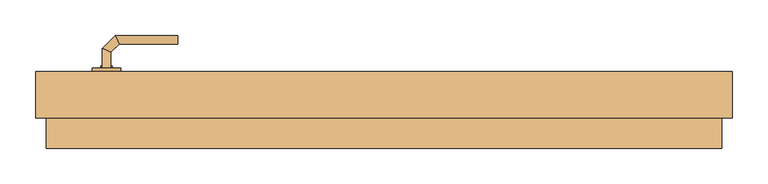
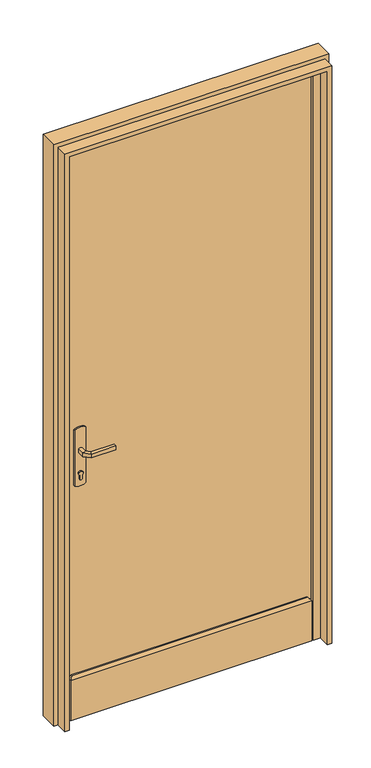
"""IFC4 building model written with IfcOpenShell, lengths in millimetres: door geometry, Porte d'entrée : PP Lisse (0.90 m x 2.15 m)."""

from ifc_helpers import new_model, si_unit, point, frame, frame_2d, origin, origin_with_axes, place, context, project, spatial, polyline, circle_curve, ellipse_curve, trimmed, segment, composite_curve, outline, extrude, faceted_brep, source, transform, mapped, element, save
from ifc_brep_helpers import plane_surface, cylinder_surface, advanced_brep


def door_41a9e6d8(model_context):
    return source(origin(), model_context, "Body", "SolidModel", [
        extrude(outline(composite_curve([segment(trimmed(circle_curve(frame_2d((904.6410162, -400.0)), 40.0), [point((870.0, -420.0))], [point((870.0, -380.0))], False, "CARTESIAN"), True, "CONTINUOUS"), segment(polyline([(870.0, -380.0), (1080.0, -380.0)]), True, "CONTINUOUS"), segment(trimmed(circle_curve(frame_2d((1045.3589838, -400.0)), 40.0), [point((1080.0, -380.0))], [point((1080.0, -420.0))], False, "CARTESIAN"), True, "CONTINUOUS"), segment(polyline([(1080.0, -420.0), (870.0, -420.0)]), True, "CONTINUOUS")], self_intersect=False)), frame((0.0, 183.0, 0.0), z_axis=(0.0, 1.0, 0.0), x_axis=(0.0, 0.0, 1.0)), (0.0, 0.0, 1.0), 5.0),
        extrude(outline(composite_curve([segment(trimmed(circle_curve(frame_2d((1045.3589838, -400.0)), 40.0), [point((1080.0, -380.0))], [point((1080.0, -420.0))], False, "CARTESIAN"), True, "CONTINUOUS"), segment(polyline([(1080.0, -420.0), (870.0, -420.0)]), True, "CONTINUOUS"), segment(trimmed(circle_curve(frame_2d((904.6410162, -400.0)), 40.0), [point((870.0, -420.0))], [point((870.0, -380.0))], False, "CARTESIAN"), True, "CONTINUOUS"), segment(polyline([(870.0, -380.0), (1080.0, -380.0)]), True, "CONTINUOUS")], self_intersect=False)), frame((0.0, 128.0, 0.0), z_axis=(0.0, 1.0, 0.0), x_axis=(0.0, 0.0, 1.0)), (0.0, 0.0, 1.0), 5.0),
        advanced_brep(
        [(-406.0, 188.0, 1007.0), (-406.0, 188.0, 993.0), (-394.0, 188.0, 993.0), (-394.0, 188.0, 1007.0), (-394.0, 210.680388, 1007.0), (-406.0, 215.6509507, 1007.0), (-394.0, 210.680388, 993.0), (-406.0, 215.6509507, 993.0), (-382.6522273, 222.0281607, 1007.0), (-387.62279, 234.0281607, 1007.0), (-382.6522273, 222.0281607, 993.0), (-387.62279, 234.0281607, 993.0), (-299.9813594, 234.0281607, 1007.0), (-299.9813594, 222.0281607, 1007.0), (-299.9813594, 222.0281607, 993.0), (-299.9813594, 234.0281607, 993.0)],
        [
            (0, 1),
            (1, 2, circle_curve(frame((-400.0, 188.0, 1013.0457722), z_axis=(0.0, -1.0, 0.0), x_axis=(1.0, 0.0, 0.0)), 20.9244589)),
            (2, 3),
            (3, 0, circle_curve(frame((-400.0, 188.0, 986.9542278), z_axis=(0.0, -1.0, 0.0), x_axis=(1.0, 0.0, 0.0)), 20.9244589)),
            (3, 4),
            (4, 5, ellipse_curve(frame((-400.0, 213.1656693, 986.9542278), z_axis=(-0.3826834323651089, -0.9238795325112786, 0.0), x_axis=(0.9238795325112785, -0.3826834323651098, 0.0)), 22.6484711, 20.9244589)),
            (5, 0),
            (2, 6),
            (6, 4),
            (1, 7),
            (7, 6, ellipse_curve(frame((-400.0, 213.1656693, 1013.0457722), z_axis=(-0.3826834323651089, -0.9238795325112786, 0.0), x_axis=(0.9238795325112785, -0.3826834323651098, 0.0)), 22.6484711, 20.9244589)),
            (5, 7),
            (4, 8),
            (8, 9, ellipse_curve(frame((-385.1375087, 228.0281607, 986.9542278), z_axis=(-0.9238795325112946, -0.38268343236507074, 0.0), x_axis=(0.3826834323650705, -0.9238795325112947, 0.0)), 22.6484711, 20.9244589)),
            (9, 5),
            (6, 10),
            (10, 8),
            (7, 11),
            (11, 10, ellipse_curve(frame((-385.1375087, 228.0281607, 1013.0457722), z_axis=(-0.9238795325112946, -0.38268343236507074, 0.0), x_axis=(0.3826834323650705, -0.9238795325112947, 0.0)), 22.6484711, 20.9244589)),
            (9, 11),
            (12, 13, circle_curve(frame((-299.9813594, 228.0281607, 986.9542278), z_axis=(1.0, 0.0, 0.0), x_axis=(0.0, -1.0, 0.0)), 20.9244589)),
            (13, 14),
            (14, 15, circle_curve(frame((-299.9813594, 228.0281607, 1013.0457722), z_axis=(1.0, 0.0, 0.0), x_axis=(0.0, -1.0, 0.0)), 20.9244589)),
            (15, 12),
            (8, 13),
            (12, 9),
            (10, 14),
            (11, 15),
        ],
        [
            plane_surface(frame((-409.2195445, 188.0, 1000.0), z_axis=(0.0, -1.0, 0.0), x_axis=(0.0, 0.0, -1.0))),
            cylinder_surface(frame((-400.0, 188.0, 986.9542278), z_axis=(0.0, -1.0, 0.0), x_axis=(1.0, 0.0, 0.0)), 20.9244589),
            plane_surface(frame((-394.0, 188.0, 1007.0), z_axis=(1.0, 0.0, 0.0), x_axis=(0.0, 1.0, 0.0))),
            cylinder_surface(frame((-400.0, 188.0, 1013.0457722), z_axis=(0.0, -1.0, 0.0), x_axis=(1.0, 0.0, 0.0)), 20.9244589),
            plane_surface(frame((-406.0, 188.0, 993.0), z_axis=(-1.0, 0.0, 0.0), x_axis=(0.0, 1.0, 0.0))),
            cylinder_surface(frame((-400.0, 213.1656693, 986.9542278), z_axis=(-0.7071067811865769, -0.7071067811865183, 0.0), x_axis=(0.7071067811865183, -0.7071067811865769, 0.0)), 20.9244589),
            plane_surface(frame((-394.0, 210.680388, 1007.0), z_axis=(0.7071067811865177, -0.7071067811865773, 0.0), x_axis=(0.7071067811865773, 0.7071067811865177, 0.0))),
            cylinder_surface(frame((-400.0, 213.1656693, 1013.0457722), z_axis=(-0.7071067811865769, -0.7071067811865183, 0.0), x_axis=(0.7071067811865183, -0.7071067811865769, 0.0)), 20.9244589),
            plane_surface(frame((-406.0, 215.6509507, 993.0), z_axis=(-0.7071067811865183, 0.7071067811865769, 0.0), x_axis=(0.7071067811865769, 0.7071067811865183, 0.0))),
            plane_surface(frame((-299.9813594, 228.0281607, 990.7804555), z_axis=(1.0, 0.0, 0.0), x_axis=(0.0, -1.0, 0.0))),
            cylinder_surface(frame((-385.1375087, 228.0281607, 986.9542278), z_axis=(-1.0, 0.0, 0.0), x_axis=(0.0, -1.0, 0.0)), 20.9244589),
            plane_surface(frame((-382.6522273, 222.0281607, 1007.0), z_axis=(0.0, -1.0, 0.0), x_axis=(1.0, 0.0, 0.0))),
            cylinder_surface(frame((-385.1375087, 228.0281607, 1013.0457722), z_axis=(-1.0, 0.0, 0.0), x_axis=(0.0, -1.0, 0.0)), 20.9244589),
            plane_surface(frame((-387.62279, 234.0281607, 993.0), z_axis=(0.0, 1.0, 0.0), x_axis=(1.0, 0.0, 0.0))),
        ],
        [
            (0, [[1, 2, 3, 4]]),
            (1, [[5, 6, 7, -4]]),
            (2, [[8, 9, -5, -3]]),
            (3, [[10, 11, -8, -2]]),
            (4, [[-7, 12, -10, -1]]),
            (5, [[13, 14, 15, -6]]),
            (6, [[16, 17, -13, -9]]),
            (7, [[18, 19, -16, -11]]),
            (8, [[-15, 20, -18, -12]]),
            (9, [[21, 22, 23, 24]]),
            (10, [[25, -21, 26, -14]]),
            (11, [[27, -22, -25, -17]]),
            (12, [[28, -23, -27, -19]]),
            (13, [[-26, -24, -28, -20]]),
        ],
    ),
        advanced_brep(
        [(-394.0, 128.0, 993.0), (-406.0, 128.0, 993.0), (-406.0, 128.0, 1007.0), (-394.0, 128.0, 1007.0), (-394.0, 105.5147955, 1007.0), (-394.0, 105.5147955, 993.0), (-406.0, 100.5442327, 1007.0), (-406.0, 100.5442327, 993.0), (-382.5147186, 94.0295141, 1007.0), (-382.5147186, 94.0295141, 993.0), (-387.4852814, 82.0295141, 1007.0), (-387.4852814, 82.0295141, 993.0), (-299.9542164, 94.0295141, 993.0), (-299.9542164, 94.0295141, 1007.0), (-299.9542164, 82.0295141, 1007.0), (-299.9542164, 82.0295141, 993.0)],
        [
            (0, 1, circle_curve(frame((-400.0, 128.0, 1013.0457722), z_axis=(0.0, 1.0, 0.0), x_axis=(-1.0, 0.0, 0.0)), 20.9244589)),
            (1, 2),
            (2, 3, circle_curve(frame((-400.0, 128.0, 986.9542278), z_axis=(0.0, 1.0, 0.0), x_axis=(-1.0, 0.0, 0.0)), 20.9244589)),
            (3, 0),
            (3, 4),
            (4, 5),
            (5, 0),
            (2, 6),
            (6, 4, ellipse_curve(frame((-400.0, 103.0295141, 986.9542278), z_axis=(-0.3826834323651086, 0.923879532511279, 0.0), x_axis=(0.9238795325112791, 0.3826834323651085, 0.0)), 22.6484711, 20.9244589)),
            (1, 7),
            (7, 6),
            (5, 7, ellipse_curve(frame((-400.0, 103.0295141, 1013.0457722), z_axis=(-0.3826834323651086, 0.923879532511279, 0.0), x_axis=(0.9238795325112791, 0.3826834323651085, 0.0)), 22.6484711, 20.9244589)),
            (4, 8),
            (8, 9),
            (9, 5),
            (6, 10),
            (10, 8, ellipse_curve(frame((-385.0, 88.0295141, 986.9542278), z_axis=(-0.9238795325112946, 0.38268343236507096, 0.0), x_axis=(0.3826834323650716, 0.9238795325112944, 0.0)), 22.6484711, 20.9244589)),
            (7, 11),
            (11, 10),
            (9, 11, ellipse_curve(frame((-385.0, 88.0295141, 1013.0457722), z_axis=(-0.9238795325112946, 0.38268343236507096, 0.0), x_axis=(0.3826834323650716, 0.9238795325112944, 0.0)), 22.6484711, 20.9244589)),
            (12, 13),
            (13, 14, circle_curve(frame((-299.9542164, 88.0295141, 986.9542278), z_axis=(1.0, 0.0, 0.0), x_axis=(0.0, -1.0, 0.0)), 20.9244589)),
            (14, 15),
            (15, 12, circle_curve(frame((-299.9542164, 88.0295141, 1013.0457722), z_axis=(1.0, 0.0, 0.0), x_axis=(0.0, -1.0, 0.0)), 20.9244589)),
            (8, 13),
            (12, 9),
            (10, 14),
            (11, 15),
        ],
        [
            plane_surface(frame((-409.2195445, 128.0, 1000.0), z_axis=(0.0, 1.0, 0.0), x_axis=(0.0, 0.0, 1.0))),
            plane_surface(frame((-394.0, 128.0, 993.0), z_axis=(1.0, 0.0, 0.0), x_axis=(0.0, -1.0, 0.0))),
            cylinder_surface(frame((-400.0, 128.0, 986.9542278), z_axis=(0.0, 1.0, 0.0), x_axis=(-1.0, 0.0, 0.0)), 20.9244589),
            plane_surface(frame((-406.0, 128.0, 1007.0), z_axis=(-1.0, 0.0, 0.0), x_axis=(0.0, -1.0, 0.0))),
            cylinder_surface(frame((-400.0, 128.0, 1013.0457722), z_axis=(0.0, 1.0, 0.0), x_axis=(-1.0, 0.0, 0.0)), 20.9244589),
            plane_surface(frame((-394.0, 105.5147955, 993.0), z_axis=(0.7071067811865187, 0.7071067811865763, 0.0), x_axis=(0.7071067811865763, -0.7071067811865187, 0.0))),
            cylinder_surface(frame((-400.0, 103.0295141, 986.9542278), z_axis=(-0.7071067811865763, 0.7071067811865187, 0.0), x_axis=(-0.7071067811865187, -0.7071067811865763, 0.0)), 20.9244589),
            plane_surface(frame((-406.0, 100.5442327, 1007.0), z_axis=(-0.7071067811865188, -0.7071067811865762, 0.0), x_axis=(0.7071067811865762, -0.7071067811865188, 0.0))),
            cylinder_surface(frame((-400.0, 103.0295141, 1013.0457722), z_axis=(-0.7071067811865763, 0.7071067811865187, 0.0), x_axis=(-0.7071067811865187, -0.7071067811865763, 0.0)), 20.9244589),
            plane_surface(frame((-299.9542164, 88.0295141, 990.7804555), z_axis=(1.0, 0.0, 0.0), x_axis=(0.0, -1.0, 0.0))),
            plane_surface(frame((-382.5147186, 94.0295141, 993.0), z_axis=(0.0, 1.0, 0.0), x_axis=(1.0, 0.0, 0.0))),
            cylinder_surface(frame((-385.0, 88.0295141, 986.9542278), z_axis=(-1.0, 0.0, 0.0), x_axis=(0.0, -1.0, 0.0)), 20.9244589),
            plane_surface(frame((-387.4852814, 82.0295141, 1007.0), z_axis=(0.0, -1.0, 0.0), x_axis=(1.0, 0.0, 0.0))),
            cylinder_surface(frame((-385.0, 88.0295141, 1013.0457722), z_axis=(-1.0, 0.0, 0.0), x_axis=(0.0, -1.0, 0.0)), 20.9244589),
        ],
        [
            (0, [[1, 2, 3, 4]]),
            (1, [[5, 6, 7, -4]]),
            (2, [[8, 9, -5, -3]]),
            (3, [[10, 11, -8, -2]]),
            (4, [[-7, 12, -10, -1]]),
            (5, [[13, 14, 15, -6]]),
            (6, [[16, 17, -13, -9]]),
            (7, [[18, 19, -16, -11]]),
            (8, [[-15, 20, -18, -12]]),
            (9, [[21, 22, 23, 24]]),
            (10, [[25, -21, 26, -14]]),
            (11, [[27, -22, -25, -17]]),
            (12, [[28, -23, -27, -19]]),
            (13, [[-26, -24, -28, -20]]),
        ],
    ),
        extrude(outline(composite_curve([segment(polyline([(908.0464422, -405.0), (895.0, -405.0)]), True, "CONTINUOUS"), segment(trimmed(circle_curve(frame_2d((895.0, -400.0)), 5.0), [point((895.0, -405.0))], [point((895.0, -395.0))], False, "CARTESIAN"), True, "CONTINUOUS"), segment(polyline([(895.0, -395.0), (908.0464422, -395.0)]), True, "CONTINUOUS"), segment(trimmed(circle_curve(frame_2d((914.2914402, -400.0)), 8.0), [point((908.0464422, -395.0))], [point((908.0464422, -405.0))], False, "CARTESIAN"), True, "CONTINUOUS")], self_intersect=False)), frame((0.0, 188.0, 0.0), z_axis=(0.0, 1.0, 0.0), x_axis=(0.0, 0.0, 1.0)), (0.0, 0.0, 1.0), 3.0),
        extrude(outline(composite_curve([segment(polyline([(908.0464422, -405.0), (895.0, -405.0)]), True, "CONTINUOUS"), segment(trimmed(circle_curve(frame_2d((895.0, -400.0)), 5.0), [point((895.0, -405.0))], [point((895.0, -395.0))], False, "CARTESIAN"), True, "CONTINUOUS"), segment(polyline([(895.0, -395.0), (908.0464422, -395.0)]), True, "CONTINUOUS"), segment(trimmed(circle_curve(frame_2d((914.2914402, -400.0)), 8.0), [point((908.0464422, -395.0))], [point((908.0464422, -405.0))], False, "CARTESIAN"), True, "CONTINUOUS")], self_intersect=False)), frame((0.0, 123.0, 0.0), z_axis=(0.0, 1.0, 0.0), x_axis=(0.0, 0.0, 1.0)), (0.0, 0.0, 1.0), 5.0),
        extrude(outline(polyline([(440.0, 183.0), (440.0, 133.0), (-460.0, 133.0), (-460.0, 183.0), (440.0, 183.0)])), origin_with_axes(), (0.0, 0.0, 1.0), 2150.0),
        faceted_brep([(-440.0, 133.0, 0.0), (-440.0, 133.0, 150.0), (-430.0, 133.0, 160.0), (410.0, 133.0, 160.0), (420.0, 133.0, 150.0), (420.0, 133.0, 0.0), (420.0, 118.0, 0.0), (420.0, 118.0, 150.0), (-440.0, 118.0, 150.0), (-440.0, 118.0, 0.0), (-430.0, 128.0, 160.0), (410.0, 128.0, 160.0)], [[[0, 1, 2, 3, 4, 5]], [[6, 7, 8, 9]], [[9, 8, 1, 0]], [[5, 6, 9, 0]], [[5, 4, 7, 6]], [[2, 10, 11, 3]], [[7, 4, 3, 11]], [[11, 10, 8, 7]], [[10, 2, 1, 8]]]),
        faceted_brep([(-500.0, 118.0, 0.0), (-500.0, 183.0, 0.0), (-460.0, 183.0, 0.0), (-460.0, 133.0, 0.0), (-445.0, 133.0, 0.0), (-445.0, 118.0, 0.0), (-445.0, 118.0, 2135.0), (425.0, 118.0, 2135.0), (425.0, 118.0, 0.0), (480.0, 118.0, 0.0), (480.0, 118.0, 2190.0), (-500.0, 118.0, 2190.0), (-445.0, 133.0, 2135.0), (-460.0, 133.0, 2150.0), (440.0, 133.0, 2150.0), (440.0, 133.0, 0.0), (425.0, 133.0, 0.0), (425.0, 133.0, 2135.0), (-460.0, 183.0, 2150.0), (-500.0, 183.0, 2190.0), (480.0, 183.0, 2190.0), (480.0, 183.0, 0.0), (440.0, 183.0, 0.0), (440.0, 183.0, 2150.0)], [[[0, 1, 2, 3, 4, 5]], [[5, 6, 7, 8, 9, 10, 11, 0]], [[4, 12, 6, 5]], [[3, 13, 14, 15, 16, 17, 12, 4]], [[2, 18, 13, 3]], [[1, 19, 20, 21, 22, 23, 18, 2]], [[0, 11, 19, 1]], [[10, 9, 21, 20]], [[9, 8, 16, 15, 22, 21]], [[17, 16, 8, 7]], [[23, 22, 15, 14]], [[12, 17, 7, 6]], [[18, 23, 14, 13]], [[11, 10, 20, 19]]]),
        extrude(outline(polyline([(0.0, -470.0), (2160.0, -470.0), (2160.0, 450.0), (0.0, 450.0), (0.0, 465.0), (2175.0, 465.0), (2175.0, -485.0), (0.0, -485.0), (0.0, -470.0)])), frame((0.0, 75.0, 0.0), z_axis=(0.0, 1.0, 0.0), x_axis=(0.0, 0.0, 1.0)), (0.0, 0.0, 1.0), 43.0),
    ])


if __name__ == "__main__":
    model = new_model("IFC4")
    model_context = context("Model", 3, world=origin())
    ifc_project = project(units=[si_unit("LENGTHUNIT", "METRE", prefix="MILLI")], contexts=[model_context])
    site = spatial("IfcSite", under=ifc_project)
    building = spatial("IfcBuilding", under=site)
    placement = place(None, origin())
    door_shape = door_41a9e6d8(model_context)
    element("IfcDoor", 1, ObjectType="Porte d'entrée : PP Lisse (0.90 m x 2.15 m)", at=placement, inside=building, context=model_context, shape_type="MappedRepresentation", body=[
        mapped(door_shape, transform((0.0, 0.0, 0.0), x_axis=(1.0, 0.0, 0.0), y_axis=(0.0, 1.0, 0.0), z_axis=(0.0, 0.0, 1.0))),
    ])
    save(model, "model.ifc")
